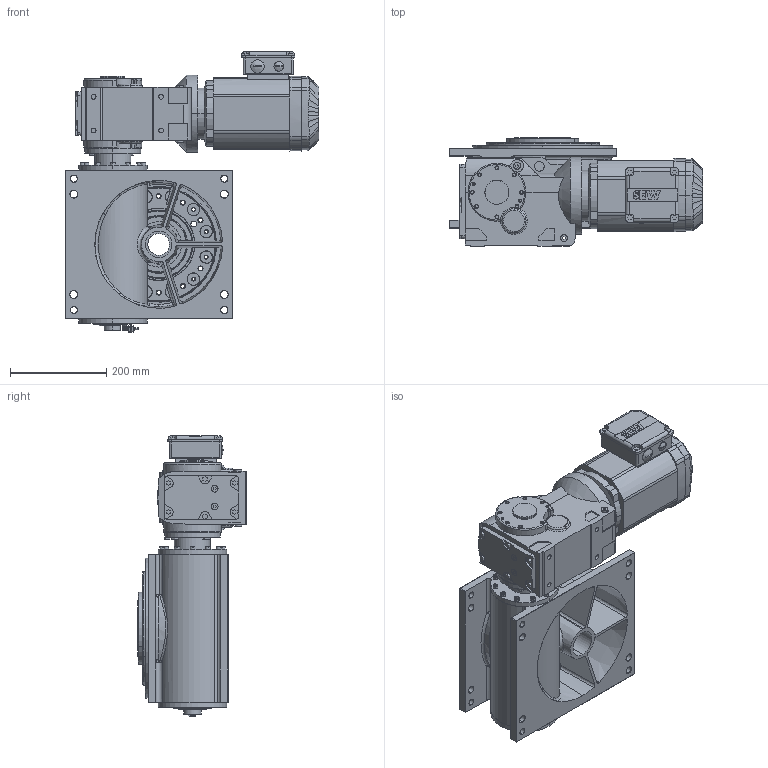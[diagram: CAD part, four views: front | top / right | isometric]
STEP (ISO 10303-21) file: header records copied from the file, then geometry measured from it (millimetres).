
FILE_DESCRIPTION (( 'STEP AP214' ), '1' );
FILE_NAME ('M235_SEW_KA47DRE80M4_D1_12.STEP', '2020-06-17T05:19:16', ( '' ), ( '' ), 'SwSTEP 2.0', 'SolidWorks 2020', '' );
FILE_SCHEMA (( 'AUTOMOTIVE_DESIGN' ));
Length unit declared in the file: millimetre
Products named in the file (1): M235_SEW_KA47DRE80M4_D1_12
Bounding box: 526 x 226 x 581.96 mm (x, y, z)
Surface area: 1169136.6 mm2 (no closed solid volume)
Topology: 0 solids, 83 shells, 1627 faces, 4921 edges, 3295 vertices
Faces by surface type: plane 618, cylinder 535, cone 241, bspline 141, torus 76, sphere 16
Entity records: 83717 total; most frequent: CARTESIAN_POINT 22488, DIRECTION 9146, ORIENTED_EDGE 8380, EDGE_CURVE 4891, AXIS2_PLACEMENT_3D 3360, VERTEX_POINT 3295, LINE 2426, VECTOR 2426
